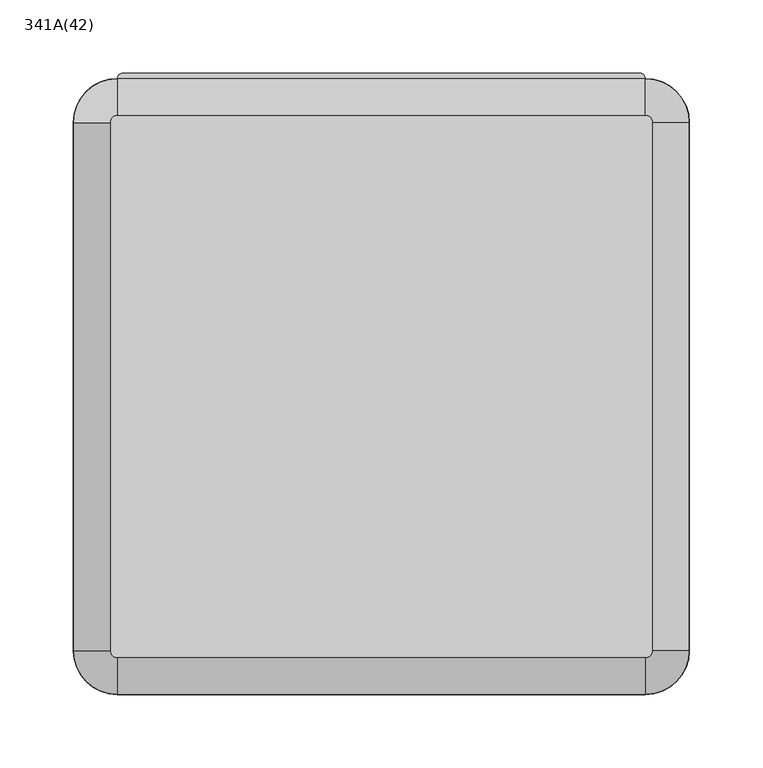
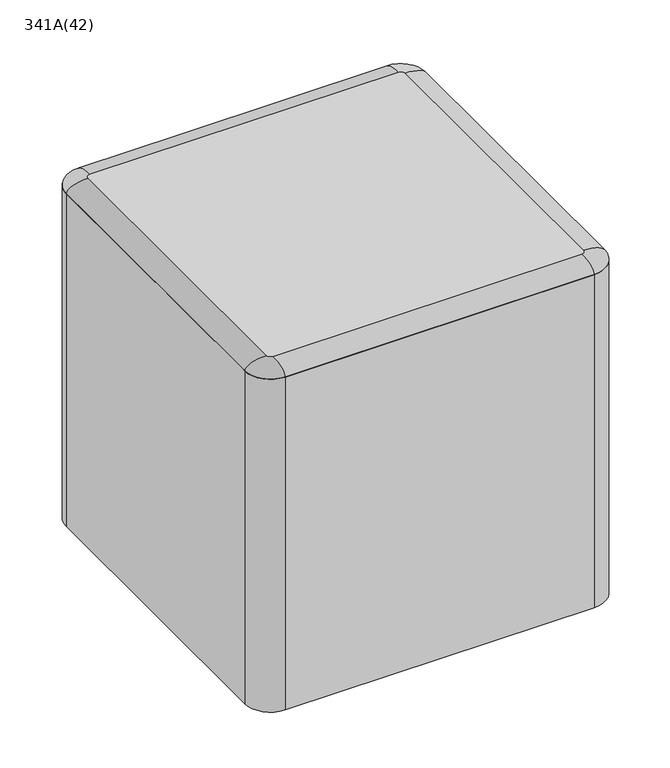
"""IFC4 building model written with IfcOpenShell, lengths in millimetres: furniture geometry, Bit Stool : 341A(42)."""

import ifcopenshell
import ifcopenshell.guid

model = None  # the IFC model being written
_history = None  # IfcOwnerHistory: only IFC2X3 demands one
_inside = {}  # id of a spatial element -> (the spatial element, [elements in it])
_under = {}  # id of a project, library or spatial element -> (it, [spatial elements below it])
_declared = {}  # id of a project -> (the project, [libraries it declares])
_typed = {}  # id of a type object -> (the type object, [elements of that type])
_made_of = {}  # id of a material, layer set ... -> (it, [elements and type objects made of it])


def new_model(schema):
    """Start an empty IFC model of exactly this schema.

    Asked for "IFC4X3", IfcOpenShell would pick the latest addendum, in which some entities
    have other attributes; the version numbers below select the first issue.
    IFC2X3 requires an IfcOwnerHistory on every rooted entity: one is made here for all.
    """
    global model, _history
    if schema == "IFC4X3":
        model = ifcopenshell.file(schema_version=(4, 3, 0, 0))
    else:
        model = ifcopenshell.file(schema=schema)
    _inside.clear()
    _under.clear()
    _declared.clear()
    _typed.clear()
    _made_of.clear()
    _history = None
    if model.schema == "IFC2X3":
        org = make("IfcOrganization", Name="unknown")
        user = make(
            "IfcPersonAndOrganization",
            ThePerson=make("IfcPerson", FamilyName="unknown"),
            TheOrganization=org,
        )
        app = make(
            "IfcApplication",
            ApplicationDeveloper=org,
            Version="unknown",
            ApplicationFullName="unknown",
            ApplicationIdentifier="unknown",
        )
        _history = make(
            "IfcOwnerHistory",
            OwningUser=user,
            OwningApplication=app,
            ChangeAction="ADDED",
            CreationDate=0,
        )
    return model


def make(cls, **values):
    """One entity of the class cls with the attributes given. An attribute that is None is left unset."""
    return model.create_entity(
        cls, **{name: value for name, value in values.items() if value is not None}
    )


def rooted(cls, **values):
    """An entity with a GlobalId (a new one), such as an element, a storey or a relation."""
    return make(cls, GlobalId=ifcopenshell.guid.new(), OwnerHistory=_history, **values)


def si_unit(unit_type, name, prefix=None):
    """IfcSIUnit, for example si_unit("LENGTHUNIT", "METRE", prefix="MILLI")."""
    return make("IfcSIUnit", UnitType=unit_type, Prefix=prefix, Name=name)


def assignment(units):
    """IfcUnitAssignment: the units of a project."""
    return None if units is None else make("IfcUnitAssignment", Units=units)


def point(xyz):
    """IfcCartesianPoint."""
    return None if xyz is None else make("IfcCartesianPoint", Coordinates=xyz)


def direction(xyz):
    """IfcDirection."""
    return None if xyz is None else make("IfcDirection", DirectionRatios=xyz)


def frame(location, z_axis=None, x_axis=None):
    """IfcAxis2Placement3D, a coordinate frame: its origin and axes. An axis left out is left unset."""
    return make(
        "IfcAxis2Placement3D",
        Location=point(location),
        Axis=direction(z_axis),
        RefDirection=direction(x_axis),
    )


def origin():
    """The frame at (0, 0, 0) with its axes left unset."""
    return frame((0.0, 0.0, 0.0))


def place(relative_to, where):
    """IfcLocalPlacement: puts the frame where relative to a parent placement (None: the world)."""
    return make(
        "IfcLocalPlacement", PlacementRelTo=relative_to, RelativePlacement=where
    )


def context(
    kind, dimensions, precision=None, world=None, true_north=None, identifier=None
):
    """IfcGeometricRepresentationContext, for example the 3D "Model" context."""
    return make(
        "IfcGeometricRepresentationContext",
        ContextIdentifier=identifier,
        ContextType=kind,
        CoordinateSpaceDimension=dimensions,
        Precision=precision,
        WorldCoordinateSystem=world,
        TrueNorth=true_north,
    )


def project(units=None, contexts=None):
    """IfcProject with its units and contexts."""
    return rooted(
        "IfcProject",
        Name="project",
        RepresentationContexts=contexts,
        UnitsInContext=assignment(units),
    )


def spatial(cls, under=None, at=None, **own):
    """A site, building, storey or space (cls), placed at a placement, below another one or the project."""
    s = rooted(cls, ObjectPlacement=at, **own)
    if under is not None:
        _under.setdefault(under.id(), (under, []))[1].append(s)
    return s


def polyline(points):
    """IfcPolyline through the points."""
    return make("IfcPolyline", Points=[point(p) for p in points])


def circle_curve(where, radius):
    """IfcCircle in the frame where."""
    return make("IfcCircle", Position=where, Radius=radius)


def ellipse_curve(where, semi_axis1, semi_axis2):
    """IfcEllipse in the frame where."""
    return make(
        "IfcEllipse", Position=where, SemiAxis1=semi_axis1, SemiAxis2=semi_axis2
    )


def trimmed(basis, trim1, trim2, sense, master):
    """IfcTrimmedCurve: the piece of a basis curve between two trims."""
    return make(
        "IfcTrimmedCurve",
        BasisCurve=basis,
        Trim1=trim1,
        Trim2=trim2,
        SenseAgreement=sense,
        MasterRepresentation=master,
    )


def shape(context_of_items, identifier, shape_type, items):
    """IfcShapeRepresentation: the items that make up one representation, for example the "Body"."""
    return make(
        "IfcShapeRepresentation",
        ContextOfItems=context_of_items,
        RepresentationIdentifier=identifier,
        RepresentationType=shape_type,
        Items=items,
    )


def source(mapping_origin, context_of_items, identifier, shape_type, items):
    """IfcRepresentationMap: a shape defined once, which mapped items show again and again."""
    return make(
        "IfcRepresentationMap",
        MappingOrigin=mapping_origin,
        MappedRepresentation=shape(context_of_items, identifier, shape_type, items),
    )


def transform(
    local_origin,
    x_axis=None,
    y_axis=None,
    z_axis=None,
    scale=None,
    scale2=None,
    scale3=None,
    uniform=True,
):
    """IfcCartesianTransformationOperator3D, or its non-uniform kind. x_axis, y_axis, z_axis: its Axis1, 2, 3."""
    if uniform:
        return make(
            "IfcCartesianTransformationOperator3D",
            Axis1=direction(x_axis),
            Axis2=direction(y_axis),
            LocalOrigin=point(local_origin),
            Scale=scale,
            Axis3=direction(z_axis),
        )
    return make(
        "IfcCartesianTransformationOperator3DnonUniform",
        Axis1=direction(x_axis),
        Axis2=direction(y_axis),
        LocalOrigin=point(local_origin),
        Scale=scale,
        Axis3=direction(z_axis),
        Scale2=scale2,
        Scale3=scale3,
    )


def mapped(mapping_source, mapping_target):
    """IfcMappedItem: shows the shape of a source again, moved by a transform."""
    return make(
        "IfcMappedItem", MappingSource=mapping_source, MappingTarget=mapping_target
    )


def made_of(thing, what):
    """Note that an element or type object is made of a material, layer set ...; save() writes the relation."""
    if what is not None:
        _made_of.setdefault(what.id(), (what, []))[1].append(thing)
    return thing


def element(
    cls,
    number,
    at=None,
    inside=None,
    cuts=None,
    type_object=None,
    material=None,
    context=None,
    identifier="Body",
    shape_type=None,
    held_by="IfcProductDefinitionShape",
    body=None,
    shapes=None,
    **own,
):
    """One element of the class cls, such as IfcWall. Its Tag is "e" and its number.

    at: its placement. inside: the storey or other place that contains it. cuts: it is an
    opening in that element (IfcRelVoidsElement). A single representation is given by context,
    identifier, shape_type and body (its items); several are given by shapes. held_by: the class
    of the entity that holds the representations. save() writes the other relations.
    """
    e = rooted(cls, Tag="e%d" % number, ObjectPlacement=at, **own)
    if body is not None:
        shapes = [shape(context, identifier, shape_type, body)]
    if shapes is not None:
        e.Representation = make(held_by, Representations=shapes)
    if inside is not None:
        _inside.setdefault(inside.id(), (inside, []))[1].append(e)
    if cuts is not None:
        rooted(
            "IfcRelVoidsElement", RelatingBuildingElement=cuts, RelatedOpeningElement=e
        )
    if type_object is not None:
        _typed.setdefault(type_object.id(), (type_object, []))[1].append(e)
    return made_of(e, material)


def aggregate(whole, parts):
    """IfcRelAggregates: a whole, such as a stair, and the parts it consists of."""
    return rooted("IfcRelAggregates", RelatingObject=whole, RelatedObjects=parts)


def save(model, path):
    """Write the relations noted so far, then the file.

    IfcRelAggregates (storeys below a building ...), IfcRelContainedInSpatialStructure (elements
    in a storey), IfcRelDefinesByType, IfcRelAssociatesMaterial and IfcRelDeclares: one each for
    every whole, place, type object, material and project.
    """
    for whole, parts in _under.values():
        aggregate(whole, parts)
    for where, things in _inside.values():
        rooted(
            "IfcRelContainedInSpatialStructure",
            RelatedElements=things,
            RelatingStructure=where,
        )
    for kind, things in _typed.values():
        rooted("IfcRelDefinesByType", RelatedObjects=things, RelatingType=kind)
    for what, things in _made_of.values():
        rooted("IfcRelAssociatesMaterial", RelatedObjects=things, RelatingMaterial=what)
    for by, libraries in _declared.values():
        rooted("IfcRelDeclares", RelatingContext=by, RelatedDefinitions=libraries)
    model.write(path)


def plane_surface(at):
    """IfcPlane: the flat surface through the origin of the frame at, square to its z axis."""
    return make("IfcPlane", Position=at)


def cylinder_surface(at, radius):
    """IfcCylindricalSurface: all points at the distance radius from the z axis of the frame at."""
    return make("IfcCylindricalSurface", Position=at, Radius=radius)


def revolved_surface(curve, axis_point, axis_direction):
    """IfcSurfaceOfRevolution: the curve turned about the line through axis_point along axis_direction."""
    return make(
        "IfcSurfaceOfRevolution",
        SweptCurve=make("IfcArbitraryOpenProfileDef", ProfileType="CURVE", Curve=curve),
        AxisPosition=make("IfcAxis1Placement", Location=point(axis_point), Axis=direction(axis_direction)),
    )


def extruded_surface(curve, direction_of_extrusion, depth):
    """IfcSurfaceOfLinearExtrusion: the curve pushed along a direction by depth."""
    return make(
        "IfcSurfaceOfLinearExtrusion",
        SweptCurve=make("IfcArbitraryOpenProfileDef", ProfileType="CURVE", Curve=curve),
        ExtrudedDirection=direction(direction_of_extrusion),
        Depth=depth,
    )


def advanced_brep(points, edges, surfaces, faces):
    """IfcAdvancedBrep: a solid bounded by faces that lie on surfaces and meet in shared edges.

    An edge is (start, end): straight between two places in points (the first is 0);
    or (start, end, curve); or (start, end, curve, False) where it runs against its curve.
    A face is (place in surfaces, loops), or (place, loops, False) where it looks against
    its surface's normal. A loop lists edges by number (the first is 1), with a minus sign
    where the edge is run from its end to its start. The first loop is the outer one.
    """
    corners = [point(p) for p in points]
    vertices = [make("IfcVertexPoint", VertexGeometry=c) for c in corners]
    made = []
    for start, end, *more in edges:
        made.append(
            make(
                "IfcEdgeCurve",
                EdgeStart=vertices[start],
                EdgeEnd=vertices[end],
                EdgeGeometry=more[0] if more else make("IfcPolyline", Points=[corners[start], corners[end]]),
                SameSense=more[1] if len(more) > 1 else True,
            )
        )
    hull = []
    for where, loops, *sense in faces:
        bounds = []
        for j, loop in enumerate(loops):
            ring = [make("IfcOrientedEdge", EdgeElement=made[abs(k) - 1], Orientation=k > 0) for k in loop]
            bounds.append(
                make(
                    "IfcFaceOuterBound" if j == 0 else "IfcFaceBound",
                    Bound=make("IfcEdgeLoop", EdgeList=ring),
                    Orientation=True,
                )
            )
        hull.append(make("IfcAdvancedFace", Bounds=bounds, FaceSurface=surfaces[where], SameSense=sense[0] if sense else True))
    return make("IfcAdvancedBrep", Outer=make("IfcClosedShell", CfsFaces=hull))


def furniture_341a_42_222ed563(model_context):
    return source(origin(), model_context, "Body", "AdvancedBrep", [
        advanced_brep(
        [(-161.4644661, 213.5355339, 320.0), (161.4644661, 213.5355339, 320.0), (176.4644661, 213.5355339, 320.0), (180.0, 210.0, 320.0), (161.9807576, 210.0, 320.0), (-161.9807576, 210.0, 320.0), (-180.0, 210.0, 320.0), (-176.4644661, 213.5355339, 320.0), (-161.4644661, 213.5355339, 360.0), (-176.4644661, 213.5355339, 360.0), (-180.0, 210.0, 360.0), (-161.9807576, 210.0, 360.0), (161.9807576, 210.0, 360.0), (180.0, 210.0, 360.0), (176.4644661, 213.5355339, 360.0), (161.4644661, 213.5355339, 360.0), (180.0, 210.0, 410.0), (-180.0, 210.0, 410.0), (-210.0, 180.0, 410.0), (-210.0, -180.0, 410.0), (-180.0, -210.0, 410.0), (180.0, -210.0, 410.0), (210.0, -180.0, 410.0), (210.0, 180.0, 410.0), (180.0, 210.0, 0.0), (210.0, 180.0, 0.0), (210.0, -180.0, 0.0), (180.0, -210.0, 0.0), (-180.0, -210.0, 0.0), (-210.0, -180.0, 0.0), (-210.0, 180.0, 0.0), (-180.0, 210.0, 0.0)],
        [
            (0, 1, circle_curve(frame((0.0, -2596.3093924, 320.0), z_axis=(0.0, 0.0, -1.0), x_axis=(1.0, 0.0, 0.0)), 2814.4802866)),
            (1, 2),
            (2, 3, circle_curve(frame((176.4644661, 210.0, 320.0), z_axis=(0.0, 0.0, -1.0), x_axis=(1.0, 0.0, 0.0)), 3.5355339)),
            (3, 4),
            (4, 5, circle_curve(frame((0.0, -2596.3093924, 320.0), z_axis=(0.0, 0.0, 1.0), x_axis=(1.0, 0.0, 0.0)), 2810.9802866)),
            (5, 6),
            (6, 7, circle_curve(frame((-176.4644661, 210.0, 320.0), z_axis=(0.0, 0.0, -1.0), x_axis=(1.0, 0.0, 0.0)), 3.5355339)),
            (7, 0),
            (8, 9),
            (9, 10, circle_curve(frame((-176.4644661, 210.0, 360.0), z_axis=(0.0, 0.0, 1.0), x_axis=(1.0, 0.0, 0.0)), 3.5355339)),
            (10, 11),
            (11, 12, circle_curve(frame((0.0, -2596.3093924, 360.0), z_axis=(0.0, 0.0, -1.0), x_axis=(1.0, 0.0, 0.0)), 2810.9802866)),
            (12, 13),
            (13, 14, circle_curve(frame((176.4644661, 210.0, 360.0), z_axis=(0.0, 0.0, 1.0), x_axis=(1.0, 0.0, 0.0)), 3.5355339)),
            (14, 15),
            (15, 8, circle_curve(frame((0.0, -2596.3093924, 360.0), z_axis=(0.0, 0.0, 1.0), x_axis=(1.0, 0.0, 0.0)), 2814.4802866)),
            (7, 9),
            (8, 0),
            (6, 10),
            (2, 14),
            (13, 3),
            (1, 15),
            (16, 17),
            (17, 18, circle_curve(frame((-180.0, 180.0, 410.0), z_axis=(0.0, 0.0, 1.0), x_axis=(1.0, 0.0, 0.0)), 30.0)),
            (18, 19),
            (19, 20, circle_curve(frame((-180.0, -180.0, 410.0), z_axis=(0.0, 0.0, 1.0), x_axis=(1.0, 0.0, 0.0)), 30.0)),
            (20, 21),
            (21, 22, circle_curve(frame((180.0, -180.0, 410.0), z_axis=(0.0, 0.0, 1.0), x_axis=(1.0, 0.0, 0.0)), 30.0)),
            (22, 23),
            (23, 16, circle_curve(frame((180.0, 180.0, 410.0), z_axis=(0.0, 0.0, 1.0), x_axis=(1.0, 0.0, 0.0)), 30.0)),
            (24, 25, circle_curve(frame((180.0, 180.0, 0.0), z_axis=(0.0, 0.0, -1.0), x_axis=(1.0, 0.0, 0.0)), 30.0)),
            (25, 26),
            (26, 27, circle_curve(frame((180.0, -180.0, 0.0), z_axis=(0.0, 0.0, -1.0), x_axis=(1.0, 0.0, 0.0)), 30.0)),
            (27, 28),
            (28, 29, circle_curve(frame((-180.0, -180.0, 0.0), z_axis=(0.0, 0.0, -1.0), x_axis=(1.0, 0.0, 0.0)), 30.0)),
            (29, 30),
            (30, 31, circle_curve(frame((-180.0, 180.0, 0.0), z_axis=(0.0, 0.0, -1.0), x_axis=(1.0, 0.0, 0.0)), 30.0)),
            (31, 24),
            (16, 13),
            (12, 4),
            (3, 24),
            (31, 6),
            (5, 11),
            (10, 17),
            (30, 18),
            (29, 19),
            (28, 20),
            (27, 21),
            (26, 22),
            (25, 23),
        ],
        [
            plane_surface(frame((-176.4644661, 213.5355339, 320.0), z_axis=(0.0, 0.0, -1.0), x_axis=(1.0, 0.0, 0.0))),
            plane_surface(frame((-176.4644661, 213.5355339, 360.0), z_axis=(0.0, 0.0, 1.0), x_axis=(-1.0, 0.0, 0.0))),
            plane_surface(frame((-161.4644661, 213.5355339, 360.0), z_axis=(0.0, 1.0, 0.0), x_axis=(0.0, 0.0, -1.0))),
            cylinder_surface(frame((-176.4644661, 210.0, 320.0), z_axis=(0.0, 0.0, 1.0), x_axis=(1.0, 0.0, 0.0)), 3.5355339),
            cylinder_surface(frame((176.4644661, 210.0, 320.0), z_axis=(0.0, 0.0, 1.0), x_axis=(1.0, 0.0, 0.0)), 3.5355339),
            plane_surface(frame((176.4644661, 213.5355339, 360.0), z_axis=(0.0, 1.0, 0.0), x_axis=(0.0, 0.0, -1.0))),
            cylinder_surface(frame((0.0, -2596.3093924, 320.0), z_axis=(0.0, 0.0, 1.0), x_axis=(1.0, 0.0, 0.0)), 2814.4802866),
            plane_surface(frame((-180.0, 210.0, 410.0), z_axis=(0.0, 0.0, 1.0), x_axis=(-1.0, 0.0, 0.0))),
            plane_surface(frame((-180.0, 210.0, 0.0), z_axis=(0.0, 0.0, -1.0), x_axis=(1.0, 0.0, 0.0))),
            plane_surface(frame((180.0, 210.0, 410.0), z_axis=(0.0, 1.0, 0.0), x_axis=(0.0, 0.0, -1.0))),
            cylinder_surface(frame((-180.0, 180.0, 0.0), z_axis=(0.0, 0.0, 1.0), x_axis=(1.0, 0.0, 0.0)), 30.0),
            plane_surface(frame((-210.0, 180.0, 410.0), z_axis=(-1.0, 0.0, 0.0), x_axis=(0.0, 0.0, -1.0))),
            cylinder_surface(frame((-180.0, -180.0, 0.0), z_axis=(0.0, 0.0, 1.0), x_axis=(1.0, 0.0, 0.0)), 30.0),
            plane_surface(frame((-180.0, -210.0, 410.0), z_axis=(0.0, -1.0, 0.0), x_axis=(0.0, 0.0, -1.0))),
            cylinder_surface(frame((180.0, -180.0, 0.0), z_axis=(0.0, 0.0, 1.0), x_axis=(1.0, 0.0, 0.0)), 30.0),
            plane_surface(frame((210.0, -180.0, 410.0), z_axis=(1.0, 0.0, 0.0), x_axis=(0.0, 0.0, -1.0))),
            cylinder_surface(frame((180.0, 180.0, 0.0), z_axis=(0.0, 0.0, 1.0), x_axis=(1.0, 0.0, 0.0)), 30.0),
            revolved_surface(polyline([(2810.9802866, -2596.3093924, 320.0), (2810.9802866, -2596.3093924, 360.0)]), (0.0, -2596.3093924, 320.0), (0.0, 0.0, -1.0)),
        ],
        [
            (0, [[1, 2, 3, 4, 5, 6, 7, 8]]),
            (1, [[9, 10, 11, 12, 13, 14, 15, 16]]),
            (2, [[-8, 17, -9, 18]]),
            (3, [[-7, 19, -10, -17]]),
            (4, [[-3, 20, -14, 21]]),
            (5, [[-2, 22, -15, -20]]),
            (6, [[-1, -18, -16, -22]]),
            (7, [[23, 24, 25, 26, 27, 28, 29, 30]]),
            (8, [[31, 32, 33, 34, 35, 36, 37, 38]]),
            (9, [[-23, 39, -13, 40, -4, 41, -38, 42, -6, 43, -11, 44]]),
            (10, [[-24, -44, -19, -42, -37, 45]]),
            (11, [[-25, -45, -36, 46]]),
            (12, [[-26, -46, -35, 47]]),
            (13, [[-27, -47, -34, 48]]),
            (14, [[-28, -48, -33, 49]]),
            (15, [[-29, -49, -32, 50]]),
            (16, [[-30, -50, -31, -41, -21, -39]]),
            (17, [[-5, -40, -12, -43]]),
        ],
    ),
        advanced_brep(
        [(-180.0, 185.0, 420.0), (-180.0, 210.0, 410.0), (-210.0, 180.0, 410.0), (-185.0, 180.0, 420.0), (-210.0, -180.0, 410.0), (-185.0, -180.0, 420.0), (-180.0, -210.0, 410.0), (-180.0, -185.0, 420.0), (180.0, -210.0, 410.0), (180.0, -185.0, 420.0), (210.0, -180.0, 410.0), (185.0, -180.0, 420.0), (210.0, 180.0, 410.0), (185.0, 180.0, 420.0), (180.0, 210.0, 410.0), (180.0, 185.0, 420.0)],
        [
            (0, 1, ellipse_curve(frame((-180.0, 185.0, 410.0), z_axis=(-1.0, 0.0, 0.0), x_axis=(0.0, 1.0, 0.0)), 25.0, 10.0)),
            (1, 2, circle_curve(frame((-180.0, 180.0, 410.0), z_axis=(0.0, 0.0, 1.0), x_axis=(0.0, 1.0, 0.0)), 30.0)),
            (2, 3, ellipse_curve(frame((-185.0, 180.0, 410.0), z_axis=(0.0, 1.0, 0.0), x_axis=(-1.0, 0.0, 0.0)), 25.0, 10.0)),
            (3, 0, circle_curve(frame((-180.0, 180.0, 420.0), z_axis=(0.0, 0.0, -1.0), x_axis=(0.0, 1.0, 0.0)), 5.0)),
            (2, 4),
            (4, 5, ellipse_curve(frame((-185.0, -180.0, 410.0), z_axis=(0.0, 1.0, 0.0), x_axis=(-1.0, 0.0, 0.0)), 25.0, 10.0)),
            (5, 3),
            (4, 6, circle_curve(frame((-180.0, -180.0, 410.0), z_axis=(0.0, 0.0, 1.0), x_axis=(-1.0, 0.0, 0.0)), 30.0)),
            (6, 7, ellipse_curve(frame((-180.0, -185.0, 410.0), z_axis=(-1.0, 0.0, 0.0), x_axis=(0.0, -1.0, 0.0)), 25.0, 10.0)),
            (7, 5, circle_curve(frame((-180.0, -180.0, 420.0), z_axis=(0.0, 0.0, -1.0), x_axis=(-1.0, 0.0, 0.0)), 5.0)),
            (6, 8),
            (8, 9, ellipse_curve(frame((180.0, -185.0, 410.0), z_axis=(-1.0, 0.0, 0.0), x_axis=(0.0, -1.0, 0.0)), 25.0, 10.0)),
            (9, 7),
            (8, 10, circle_curve(frame((180.0, -180.0, 410.0), z_axis=(0.0, 0.0, 1.0), x_axis=(0.0, -1.0, 0.0)), 30.0)),
            (10, 11, ellipse_curve(frame((185.0, -180.0, 410.0), z_axis=(0.0, -1.0, 0.0), x_axis=(1.0, 0.0, 0.0)), 25.0, 10.0)),
            (11, 9, circle_curve(frame((180.0, -180.0, 420.0), z_axis=(0.0, 0.0, -1.0), x_axis=(0.0, -1.0, 0.0)), 5.0)),
            (10, 12),
            (12, 13, ellipse_curve(frame((185.0, 180.0, 410.0), z_axis=(0.0, -1.0, 0.0), x_axis=(1.0, 0.0, 0.0)), 25.0, 10.0)),
            (13, 11),
            (12, 14, circle_curve(frame((180.0, 180.0, 410.0), z_axis=(0.0, 0.0, 1.0), x_axis=(1.0, 0.0, 0.0)), 30.0)),
            (14, 15, ellipse_curve(frame((180.0, 185.0, 410.0), z_axis=(1.0, 0.0, 0.0), x_axis=(0.0, 1.0, 0.0)), 25.0, 10.0)),
            (15, 13, circle_curve(frame((180.0, 180.0, 420.0), z_axis=(0.0, 0.0, -1.0), x_axis=(1.0, 0.0, 0.0)), 5.0)),
            (1, 14),
            (0, 15),
        ],
        [
            revolved_surface(trimmed(ellipse_curve(frame((-180.0, 185.0, 410.0), z_axis=(1.0, 0.0, 0.0), x_axis=(0.0, 1.0, 0.0)), 25.0, 10.0), [point((-180.0, 210.0, 410.0))], [point((-180.0, 185.0, 420.0))], True, "CARTESIAN"), (-180.0, 180.0, 410.0), (0.0, 0.0, 1.0)),
            extruded_surface(trimmed(ellipse_curve(frame((-185.0, -180.0, 410.0), z_axis=(0.0, 1.0, 0.0), x_axis=(-1.0, 0.0, 0.0)), 25.0, 10.0), [point((-210.0, -180.0, 410.0))], [point((-185.0, -180.0, 420.0))], True, "CARTESIAN"), (0.0, 360.0, 0.0), 360.0),
            revolved_surface(trimmed(ellipse_curve(frame((-185.0, -180.0, 410.0), z_axis=(0.0, 1.0, 0.0), x_axis=(-1.0, 0.0, 0.0)), 25.0, 10.0), [point((-210.0, -180.0, 410.0))], [point((-185.0, -180.0, 420.0))], True, "CARTESIAN"), (-180.0, -180.0, 410.0), (0.0, 0.0, 1.0)),
            extruded_surface(trimmed(ellipse_curve(frame((180.0, -185.0, 410.0), z_axis=(-1.0, 0.0, 0.0), x_axis=(0.0, -1.0, 0.0)), 25.0, 10.0), [point((180.0, -210.0, 410.0))], [point((180.0, -185.0, 420.0))], True, "CARTESIAN"), (-360.0, 0.0, 0.0), 360.0),
            revolved_surface(trimmed(ellipse_curve(frame((180.0, -185.0, 410.0), z_axis=(-1.0, 0.0, 0.0), x_axis=(0.0, -1.0, 0.0)), 25.0, 10.0), [point((180.0, -210.0, 410.0))], [point((180.0, -185.0, 420.0))], True, "CARTESIAN"), (180.0, -180.0, 410.0), (0.0, 0.0, 1.0)),
            extruded_surface(trimmed(ellipse_curve(frame((185.0, 180.0, 410.0), z_axis=(0.0, -1.0, 0.0), x_axis=(1.0, 0.0, 0.0)), 25.0, 10.0), [point((210.0, 180.0, 410.0))], [point((185.0, 180.0, 420.0))], True, "CARTESIAN"), (0.0, -360.0, 0.0), 360.0),
            revolved_surface(trimmed(ellipse_curve(frame((185.0, 180.0, 410.0), z_axis=(0.0, -1.0, 0.0), x_axis=(1.0, 0.0, 0.0)), 25.0, 10.0), [point((210.0, 180.0, 410.0))], [point((185.0, 180.0, 420.0))], True, "CARTESIAN"), (180.0, 180.0, 410.0), (0.0, 0.0, 1.0)),
            plane_surface(frame((180.0, 185.0, 410.0), z_axis=(0.0, 0.0, -1.0), x_axis=(-1.0, 0.0, 0.0))),
            extruded_surface(trimmed(ellipse_curve(frame((-180.0, 185.0, 410.0), z_axis=(1.0, 0.0, 0.0), x_axis=(0.0, 1.0, 0.0)), 25.0, 10.0), [point((-180.0, 210.0, 410.0))], [point((-180.0, 185.0, 420.0))], True, "CARTESIAN"), (360.0, 0.0, 0.0), 360.0),
            plane_surface(frame((-180.0, 185.0, 420.0), z_axis=(0.0, 0.0, 1.0), x_axis=(-1.0, 0.0, 0.0))),
        ],
        [
            (0, [[1, 2, 3, 4]]),
            (1, [[-3, 5, 6, 7]]),
            (2, [[-6, 8, 9, 10]]),
            (3, [[-9, 11, 12, 13]]),
            (4, [[-12, 14, 15, 16]]),
            (5, [[-15, 17, 18, 19]]),
            (6, [[-18, 20, 21, 22]]),
            (7, [[-2, 23, -20, -17, -14, -11, -8, -5]]),
            (8, [[-1, 24, -21, -23]]),
            (9, [[-4, -7, -10, -13, -16, -19, -22, -24]]),
        ],
    ),
    ])


if __name__ == "__main__":
    model = new_model("IFC4")
    model_context = context("Model", 3, world=origin())
    ifc_project = project(units=[si_unit("LENGTHUNIT", "METRE", prefix="MILLI")], contexts=[model_context])
    site = spatial("IfcSite", under=ifc_project)
    building = spatial("IfcBuilding", under=site)
    placement = place(None, origin())
    furniture_341a_42_shape = furniture_341a_42_222ed563(model_context)
    element("IfcFurniture", 1, ObjectType="Bit Stool : 341A(42)", at=placement, inside=building, context=model_context, shape_type="MappedRepresentation", body=[
        mapped(furniture_341a_42_shape, transform((0.0, 0.0, 0.0), x_axis=(1.0, 0.0, 0.0), y_axis=(0.0, 1.0, 0.0), z_axis=(0.0, 0.0, 1.0))),
    ])
    save(model, "model.ifc")
